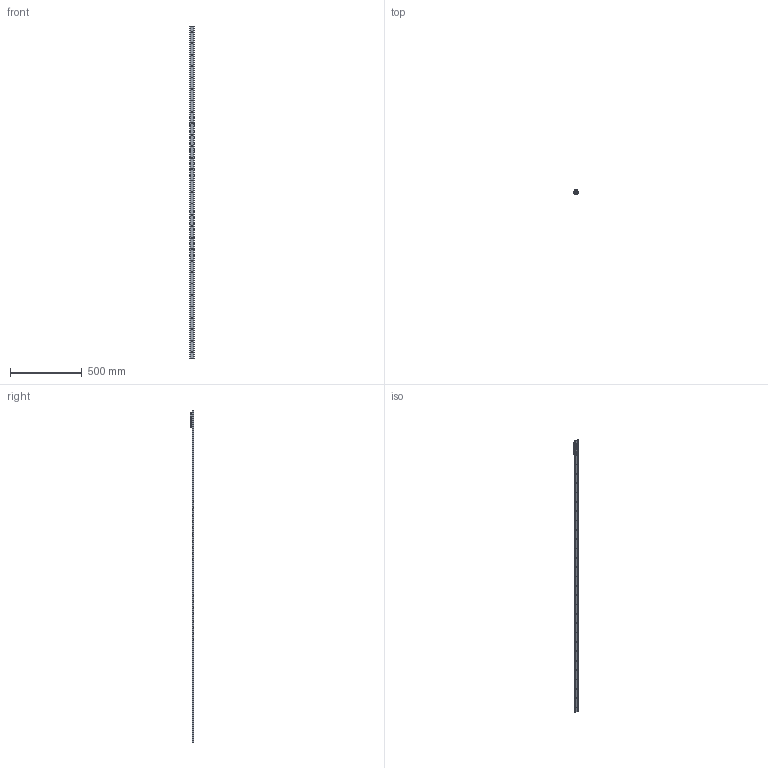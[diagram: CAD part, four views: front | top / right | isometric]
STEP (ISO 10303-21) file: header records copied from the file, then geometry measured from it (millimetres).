
FILE_DESCRIPTION( ( 'STEP AP214' ), '1' );
FILE_NAME( 'p:/temp/worker_22/temp/exporttempdir_3592_108_xtexL/format_1/TGV-02320_1_RV28G-3.stp', '2020-11-20T16:41:07', ( 'License CC BY-ND 4.0' ), ( 'CADENAS' ), ' ', 'PARTsolutions', ' ' );
FILE_SCHEMA( ( 'AUTOMOTIVE_DESIGN { 1 0 10303 214 1 1 1 1 }' ) );
Length unit declared in the file: millimetre
Products named in the file (6): TGV-02320/1/RV28G-3; _TGV28-2320-(3-1); _RV28G-3-slider; _RGNV28R; _RGAV28R; _WR28G-01
Assembly tree (7 placements, depth 2):
  TGV-02320/1/RV28G-3
    _TGV28-2320-(3-1)
    _RV28G-3-slider
    _RGNV28R  x2
    _RGAV28R
    _WR28G-01  x2
Bounding box: 28 x 24 x 2320 mm (x, y, z)
Volume: 371452.1 mm3; surface area: 238288.2 mm2
Topology: 7 solids, 7 shells, 1070 faces, 2790 edges, 1816 vertices
Faces by surface type: plane 657, cylinder 309, cone 69, bspline 26, torus 9
Full cylindrical faces by diameter (mm): 1.27 x4, 2 x2, 2.5 x6, 4 x4, 4.134 x4, 4.2 x3, 5 x3, 5.5 x3, 5.75 x29, 7 x5, 7.5 x1, 8 x6, 10.8 x3, 17 x3, 20.75 x6
Entity records: 26081 total; most frequent: CARTESIAN_POINT 4107, DIRECTION 3490, ORIENTED_EDGE 3168, EDGE_CURVE 1584, AXIS2_PLACEMENT_3D 1350, VERTEX_POINT 1116, EDGE_LOOP 965, LINE 790
